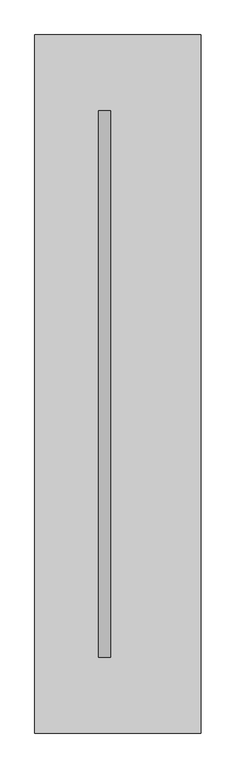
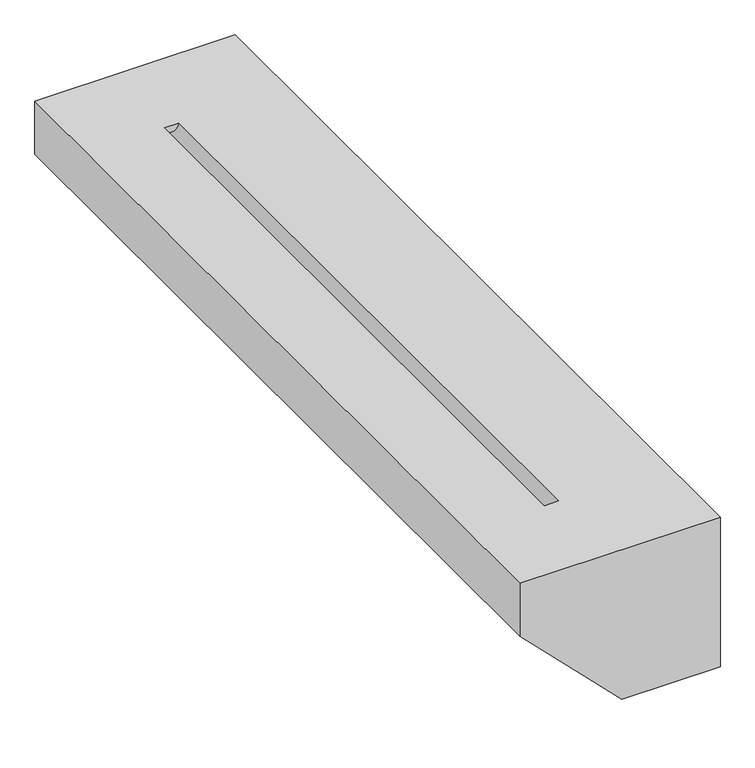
"""IFC4 building model written with IfcOpenShell, lengths in millimetres: proxy geometry, Chevêtre C0 : Chevêtre."""

from ifc_helpers import new_model, si_unit, frame, origin, place, context, project, spatial, polyline, circle_curve, source, transform, mapped, element, save
from ifc_brep_helpers import plane_surface, revolved_surface, advanced_brep


def generic_models_be5d55c7(model_context):
    return source(origin(), model_context, "Body", "AdvancedBrep", [
        advanced_brep(
        [(-6700.0, 3000.0, 2960.0), (-7430.0, 3000.0, 3690.0), (-7430.0, 3000.0, 4090.0), (-6000.0, 3000.0, 4090.0), (-6000.0, 3000.0, 2960.0), (-6700.0, -3000.0, 2960.0), (-6000.0, -3000.0, 2960.0), (-6000.0, -3000.0, 4090.0), (-7430.0, -3000.0, 4090.0), (-7430.0, -3000.0, 3690.0), (-6880.0, 2350.0, 4090.0), (-6780.0, 2350.0, 4090.0), (-6780.0, -2350.0, 4090.0), (-6880.0, -2350.0, 4090.0)],
        [
            (0, 1),
            (1, 2),
            (2, 3),
            (3, 4),
            (4, 0),
            (5, 6),
            (6, 7),
            (7, 8),
            (8, 9),
            (9, 5),
            (0, 5),
            (9, 1),
            (8, 2),
            (7, 3),
            (10, 11),
            (11, 12),
            (12, 13),
            (13, 10),
            (6, 4),
            (10, 11, circle_curve(frame((-6830.0, 2350.0, 4090.0), z_axis=(0.0, -1.0, 0.0), x_axis=(1.0, 0.0, 0.0)), 50.0)),
            (12, 13, circle_curve(frame((-6830.0, -2350.0, 4090.0), z_axis=(0.0, 1.0, 0.0), x_axis=(1.0, 0.0, 0.0)), 50.0)),
        ],
        [
            plane_surface(frame((-7430.0, 3000.0, 3690.0), z_axis=(0.0, 1.0, 0.0), x_axis=(-0.707106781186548, 0.0, 0.707106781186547))),
            plane_surface(frame((-7430.0, -3000.0, 3690.0), z_axis=(0.0, -1.0, 0.0), x_axis=(0.707106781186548, 0.0, -0.707106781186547))),
            plane_surface(frame((-6700.0, 3000.0, 2960.0), z_axis=(-0.707106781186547, 0.0, -0.707106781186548), x_axis=(0.0, -1.0, 0.0))),
            plane_surface(frame((-7430.0, 3000.0, 3690.0), z_axis=(-1.0, 0.0, 0.0), x_axis=(0.0, -1.0, 0.0))),
            plane_surface(frame((-7430.0, 3000.0, 4090.0), z_axis=(0.0, 0.0, 1.0), x_axis=(0.0, -1.0, 0.0))),
            plane_surface(frame((-6000.0, 3000.0, 4090.0), z_axis=(1.0, 0.0, 0.0), x_axis=(0.0, -1.0, 0.0))),
            plane_surface(frame((-6000.0, 3000.0, 2960.0), z_axis=(0.0, 0.0, -1.0), x_axis=(0.0, -1.0, 0.0))),
            plane_surface(frame((-6780.0, 2350.0, 4090.0), z_axis=(0.0, -1.0, 0.0), x_axis=(0.0, 0.0, -1.0))),
            plane_surface(frame((-6780.0, -2350.0, 4090.0), z_axis=(0.0, 1.0, 0.0), x_axis=(0.0, 0.0, 1.0))),
            revolved_surface(polyline([(-6780.0, 2350.0, 4090.0), (-6780.0, -2350.0, 4090.0)]), (-6830.0, -2350.0, 4090.0), (0.0, 1.0, 0.0)),
        ],
        [
            (0, [[1, 2, 3, 4, 5]]),
            (1, [[6, 7, 8, 9, 10]]),
            (2, [[-1, 11, -10, 12]]),
            (3, [[-2, -12, -9, 13]]),
            (4, [[-3, -13, -8, 14], [15, 16, 17, 18]]),
            (5, [[-4, -14, -7, 19]]),
            (6, [[-5, -19, -6, -11]]),
            (7, [[20, -15]]),
            (8, [[21, -17]]),
            (9, [[-20, -18, -21, -16]]),
        ],
    ),
    ])


if __name__ == "__main__":
    model = new_model("IFC4")
    model_context = context("Model", 3, world=origin())
    ifc_project = project(units=[si_unit("LENGTHUNIT", "METRE", prefix="MILLI")], contexts=[model_context])
    site = spatial("IfcSite", under=ifc_project)
    building = spatial("IfcBuilding", under=site)
    placement = place(None, origin())
    generic_models_shape = generic_models_be5d55c7(model_context)
    element("IfcBuildingElementProxy", 1, Name="Chevêtre C0 : Chevêtre", ObjectType="Chevêtre C0 : Chevêtre", at=placement, inside=building, context=model_context, shape_type="MappedRepresentation", body=[
        mapped(generic_models_shape, transform((0.0, 0.0, 0.0), x_axis=(1.0, 0.0, 0.0), y_axis=(0.0, 1.0, 0.0), z_axis=(0.0, 0.0, 1.0))),
    ])
    save(model, "model.ifc")
